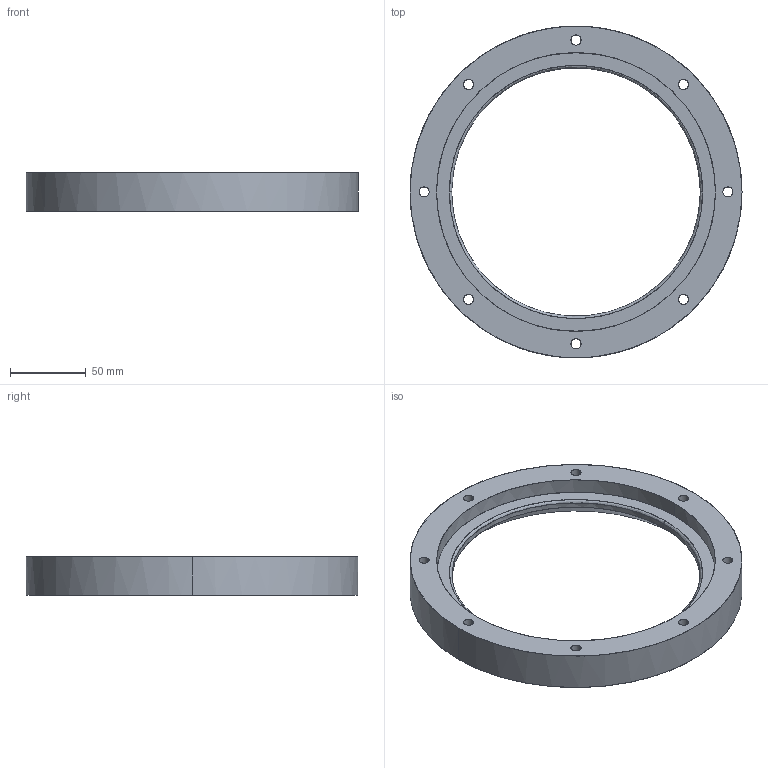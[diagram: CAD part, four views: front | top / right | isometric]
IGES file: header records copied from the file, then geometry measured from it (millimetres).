
Start section: C
Global section: file name: quartz_holder.igs; native system:  By UGS Corp.; preprocessor: XPlus GENERIC/IGES 3.0; author: Author; organization: Title; date: 20110219.170354; units: millimetre
Bounding box: 219.07 x 218.73 x 25.4 mm (x, y, z)
Surface area: 65933.3 mm2 (no closed solid volume)
Topology: 0 solids, 0 shells, 53 faces, 244 edges, 244 vertices
Faces by surface type: bspline 53
